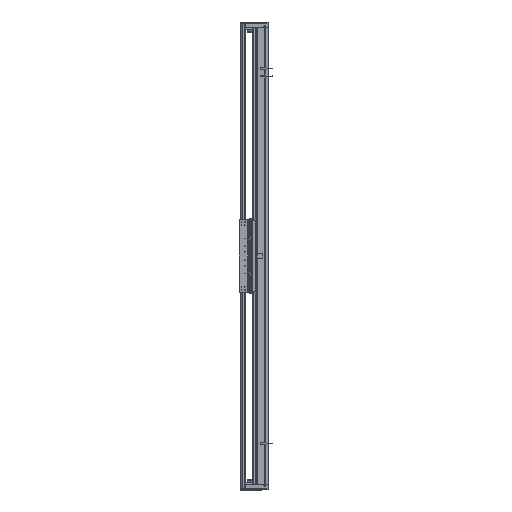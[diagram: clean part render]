
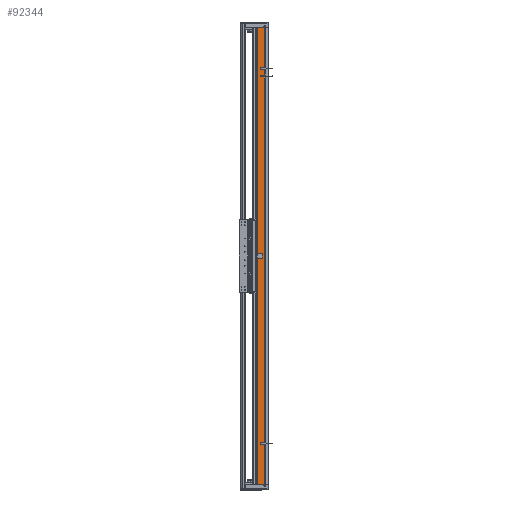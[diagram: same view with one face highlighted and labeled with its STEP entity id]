
A CAD part, left-side view. The second image highlights one B-rep face of the part: STEP entity #92344.
In plain terms, the highlighted planar face has unit normal (-1, 0, 0).
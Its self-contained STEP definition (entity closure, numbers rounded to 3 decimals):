
#908 = DIRECTION ( 'NONE',  ( 0., 1., 0. ) ) ;
#2415 = ORIENTED_EDGE ( 'NONE', *, *, #3809, .F. ) ;
#3463 = CARTESIAN_POINT ( 'NONE',  ( -97.5, 36.95, 780. ) ) ;
#3809 = EDGE_CURVE ( 'NONE', #85083, #40728, #109454, .T. ) ;
#4977 = DIRECTION ( 'NONE',  ( 0., -1., 0. ) ) ;
#6254 = EDGE_CURVE ( 'NONE', #40728, #94739, #113895, .T. ) ;
#11557 = VERTEX_POINT ( 'NONE', #145193 ) ;
#17377 = VECTOR ( 'NONE', #68972, 1000. ) ;
#19485 = DIRECTION ( 'NONE',  ( 0., 0., -1. ) ) ;
#21137 = EDGE_CURVE ( 'NONE', #11557, #94739, #137053, .T. ) ;
#33472 = CARTESIAN_POINT ( 'NONE',  ( -97.5, 36.95, 780. ) ) ;
#34949 = PLANE ( 'NONE',  #122117 ) ;
#40728 = VERTEX_POINT ( 'NONE', #103718 ) ;
#45044 = DIRECTION ( 'NONE',  ( 0., 0., -1. ) ) ;
#56679 = LINE ( 'NONE', #33472, #105231 ) ;
#57312 = CARTESIAN_POINT ( 'NONE',  ( -97.5, 36.95, -780. ) ) ;
#61600 = EDGE_LOOP ( 'NONE', ( #150902, #90790, #2415, #78349 ) ) ;
#64350 = CARTESIAN_POINT ( 'NONE',  ( -97.5, 14.45, -780. ) ) ;
#68972 = DIRECTION ( 'NONE',  ( 0., -1., 0. ) ) ;
#78349 = ORIENTED_EDGE ( 'NONE', *, *, #117573, .T. ) ;
#85083 = VERTEX_POINT ( 'NONE', #88113 ) ;
#88113 = CARTESIAN_POINT ( 'NONE',  ( -97.5, 36.95, 780. ) ) ;
#90790 = ORIENTED_EDGE ( 'NONE', *, *, #6254, .F. ) ;
#92344 = ADVANCED_FACE ( 'NONE', ( #106886 ), #34949, .F. ) ;
#94739 = VERTEX_POINT ( 'NONE', #64350 ) ;
#98859 = VECTOR ( 'NONE', #19485, 1000. ) ;
#103718 = CARTESIAN_POINT ( 'NONE',  ( -97.5, 14.45, 780. ) ) ;
#105231 = VECTOR ( 'NONE', #45044, 1000. ) ;
#106886 = FACE_OUTER_BOUND ( 'NONE', #61600, .T. ) ;
#109454 = LINE ( 'NONE', #3463, #136150 ) ;
#113895 = LINE ( 'NONE', #123990, #98859 ) ;
#117573 = EDGE_CURVE ( 'NONE', #85083, #11557, #56679, .T. ) ;
#122117 = AXIS2_PLACEMENT_3D ( 'NONE', #140212, #139462, #908 ) ;
#123990 = CARTESIAN_POINT ( 'NONE',  ( -97.5, 14.45, 780. ) ) ;
#136150 = VECTOR ( 'NONE', #4977, 1000. ) ;
#137053 = LINE ( 'NONE', #57312, #17377 ) ;
#139462 = DIRECTION ( 'NONE',  ( 1., 0., 0. ) ) ;
#140212 = CARTESIAN_POINT ( 'NONE',  ( -97.5, 36.95, 780. ) ) ;
#145193 = CARTESIAN_POINT ( 'NONE',  ( -97.5, 36.95, -780. ) ) ;
#150902 = ORIENTED_EDGE ( 'NONE', *, *, #21137, .T. ) ;
